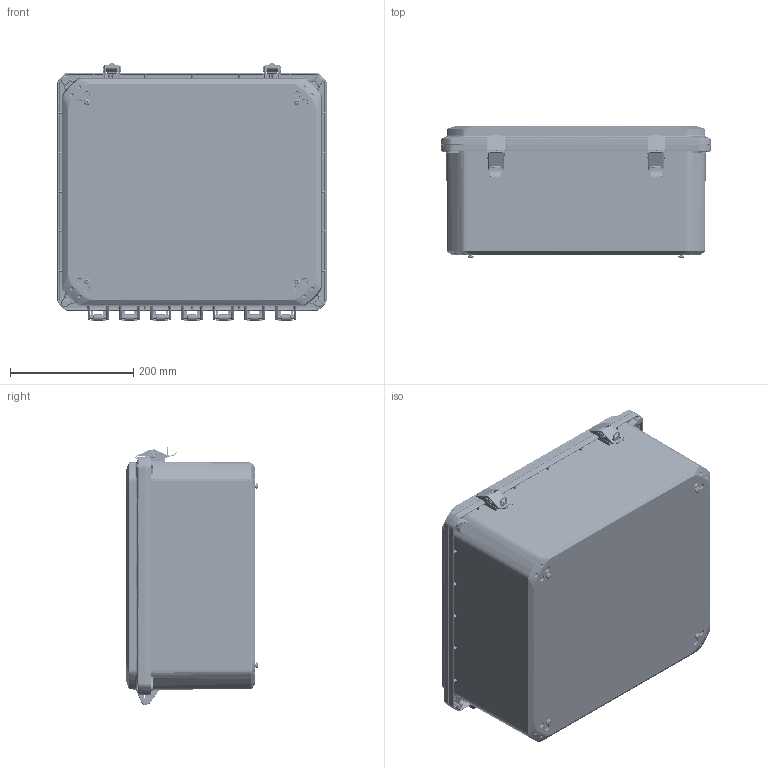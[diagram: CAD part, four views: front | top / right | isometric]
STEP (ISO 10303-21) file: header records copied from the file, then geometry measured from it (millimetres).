
FILE_DESCRIPTION (( 'STEP AP214' ), '1' );
FILE_NAME ('ZH-161407-90.STEP', '2024-06-17T12:04:11', ( '' ), ( '' ), 'SwSTEP 2.0', 'SolidWorks 2024', '' );
FILE_SCHEMA (( 'AUTOMOTIVE_DESIGN' ));
Length unit declared in the file: inch
Products named in the file (16): ZH-01L1; Z_-16141CG_ZH-16141CG-01; ZH-01L4; ZH-01L; ZH-01L2; ZH-01L3; ZH-161407-90; Z_-16141C_ZH-16141C-01; Z_-16147B_ZH-16147B-01; ZH-01L5; LABEL-104; ZH-95P_DEFAULT; Z_-16147BI_ZH-16147BI-01; ZH-1614G; SCREWS-049_SCREWS-049; INSERTS-4
Assembly tree (33 placements, depth 3):
  ZH-161407-90
    Z_-16147BI_ZH-16147BI-01
      Z_-16147B_ZH-16147B-01
      INSERTS-4  x12
      LABEL-104
    Z_-16141CG_ZH-16141CG-01
      Z_-16141C_ZH-16141C-01
      ZH-1614G
    ZH-95P_DEFAULT  x4
    ZH-01L  x2
      ZH-01L1
      ZH-01L2
      ZH-01L3
      ZH-01L4
      ZH-01L5
    SCREWS-049_SCREWS-049  x4
Bounding box: 437.9 x 214.55 x 419.06 mm (x, y, z)
Volume: 3136939.9 mm3; surface area: 1467049.7 mm2
Topology: 38 solids, 38 shells, 7813 faces, 19025 edges, 11266 vertices
Faces by surface type: bspline 2132, plane 1872, cylinder 1767, cone 904, torus 896, sphere 242
Entity records: 295091 total; most frequent: CARTESIAN_POINT 169253, ORIENTED_EDGE 28738, DIRECTION 23693, EDGE_CURVE 14369, AXIS2_PLACEMENT_3D 9716, VERTEX_POINT 8425, EDGE_LOOP 6318, ADVANCED_FACE 6113
